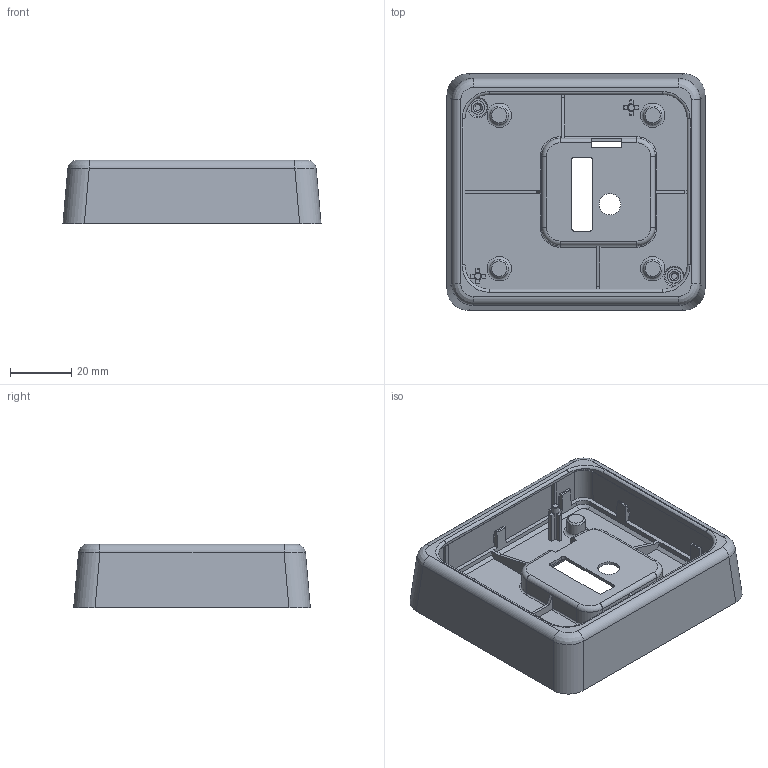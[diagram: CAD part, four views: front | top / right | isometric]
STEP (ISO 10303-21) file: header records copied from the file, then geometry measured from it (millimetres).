
FILE_DESCRIPTION(/* description */ (''),/* implementation_level */ '2;1');
FILE_NAME(/* name */ 'V2.5 2023-04-13.stp',/* time_stamp */ '2023-05-23T23:28:02+08:00',/* author */ (''),/* organization */ (''),/* preprocessor_version */ 'ST-DEVELOPER v18.1',/* originating_system */ 'SIEMENS PLM Software NX 1984',/* authorisation */ '');
FILE_SCHEMA (('AUTOMOTIVE_DESIGN { 1 0 10303 214 3 1 1 1 }'));
Length unit declared in the file: millimetre
Products named in the file (1): tedm229475714a8d
Bounding box: 84.55 x 77.51 x 20.85 mm (x, y, z)
Volume: 24572.9 mm3; surface area: 32500.3 mm2
Topology: 2 solids, 2 shells, 482 faces, 1256 edges, 806 vertices
Faces by surface type: plane 303, cylinder 93, bspline 32, torus 28, cone 26
Full cylindrical faces by diameter (mm): 2.01 x2, 2.362 x2, 4.02 x4, 4.428 x2, 6.03 x4, 7.035 x1
Entity records: 15115 total; most frequent: CARTESIAN_POINT 3416, ORIENTED_EDGE 2438, DIRECTION 2317, EDGE_CURVE 1219, LINE 863, VECTOR 863, VERTEX_POINT 798, AXIS2_PLACEMENT_3D 727
